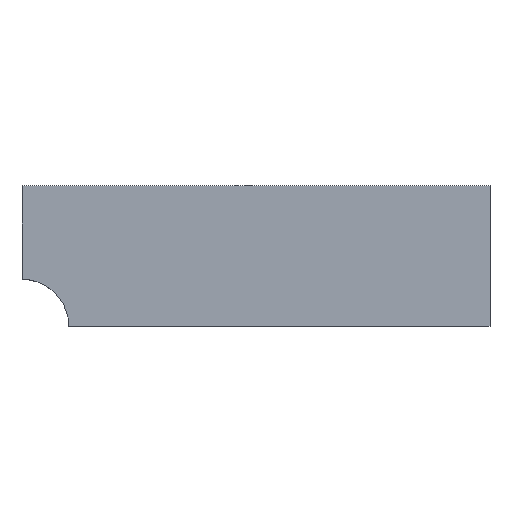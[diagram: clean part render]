
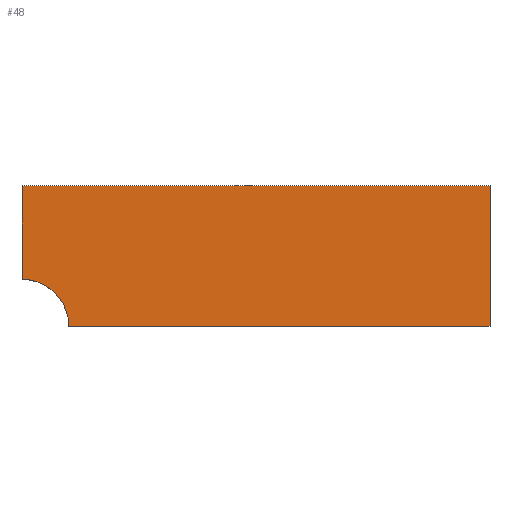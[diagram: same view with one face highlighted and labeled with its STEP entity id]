
A CAD part, top view. The second image highlights one B-rep face of the part: STEP entity #48.
In plain terms, the highlighted planar face has unit normal (0, 0, 1).
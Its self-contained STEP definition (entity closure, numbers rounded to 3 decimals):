
#48=ADVANCED_FACE('',(#58),#59,.T.);
#58=FACE_OUTER_BOUND('',#72,.T.);
#59=PLANE('',#73);
#72=EDGE_LOOP('',(#96,#97,#98,#99,#100));
#73=AXIS2_PLACEMENT_3D('',#101,#102,#103);
#96=ORIENTED_EDGE('',*,*,#133,.F.);
#97=ORIENTED_EDGE('',*,*,#140,.T.);
#98=ORIENTED_EDGE('',*,*,#141,.T.);
#99=ORIENTED_EDGE('',*,*,#142,.T.);
#100=ORIENTED_EDGE('',*,*,#137,.T.);
#101=CARTESIAN_POINT('',(0.0,0.0,0.25));
#102=DIRECTION('',(0.0,0.0,1.0));
#103=DIRECTION('',(1.0,0.0,0.0));
#133=EDGE_CURVE('',#148,#149,#150,.T.);
#137=EDGE_CURVE('',#156,#149,#157,.T.);
#140=EDGE_CURVE('',#148,#161,#162,.T.);
#141=EDGE_CURVE('',#161,#163,#164,.T.);
#142=EDGE_CURVE('',#163,#156,#165,.T.);
#148=VERTEX_POINT('',#173);
#149=VERTEX_POINT('',#174);
#150=LINE('',#175,#176);
#156=VERTEX_POINT('',#185);
#157=CIRCLE('',#186,0.5);
#161=VERTEX_POINT('',#191);
#162=LINE('',#192,#193);
#163=VERTEX_POINT('',#194);
#164=LINE('',#195,#196);
#165=LINE('',#197,#198);
#173=CARTESIAN_POINT('',(5.0,0.0,0.25));
#174=CARTESIAN_POINT('',(0.5,0.0,0.25));
#175=CARTESIAN_POINT('',(-0.5,0.0,0.25));
#176=VECTOR('',#211,1.0);
#185=CARTESIAN_POINT('',(0.0,0.5,0.25));
#186=AXIS2_PLACEMENT_3D('',#215,#216,#217);
#191=CARTESIAN_POINT('',(5.0,1.5,0.25));
#192=CARTESIAN_POINT('',(5.0,0.0,0.25));
#193=VECTOR('',#222,1.0);
#194=CARTESIAN_POINT('',(0.0,1.5,0.25));
#195=CARTESIAN_POINT('',(0.0,1.5,0.25));
#196=VECTOR('',#223,1.0);
#197=CARTESIAN_POINT('',(0.0,-0.5,0.25));
#198=VECTOR('',#224,1.0);
#211=DIRECTION('',(-1.0,0.0,0.0));
#215=CARTESIAN_POINT('',(0.0,0.0,0.25));
#216=DIRECTION('',(0.0,0.0,-1.0));
#217=DIRECTION('',(1.0,0.0,0.0));
#222=DIRECTION('',(0.0,1.0,0.0));
#223=DIRECTION('',(-1.0,0.0,0.0));
#224=DIRECTION('',(-0.0,-1.0,0.0));
